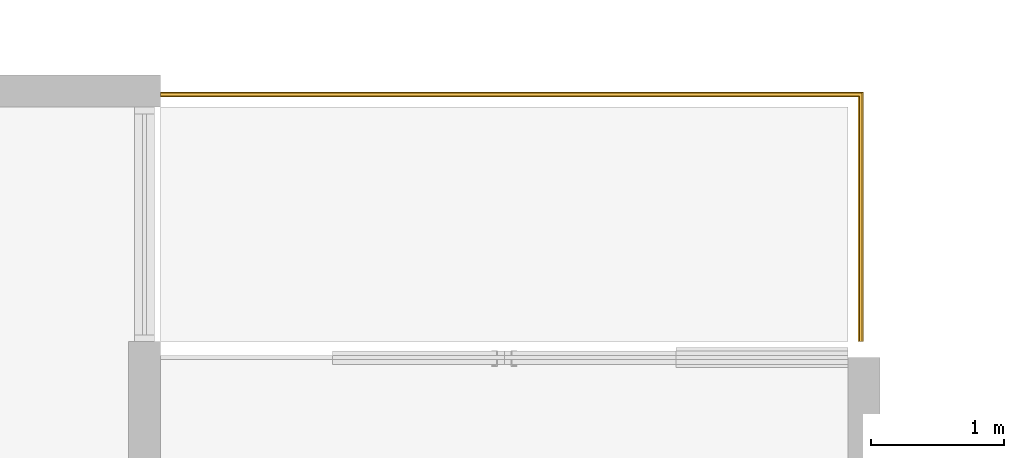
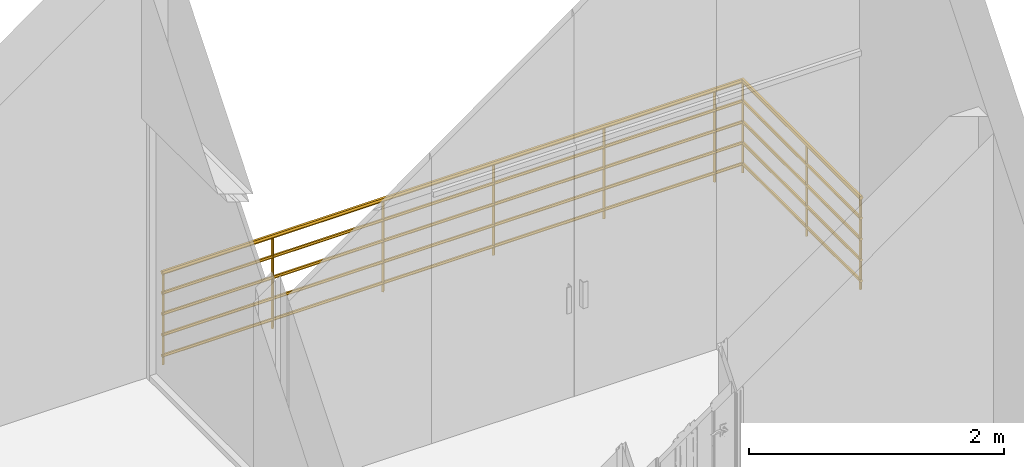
# One storey, part 33 of 33: 1 railing.
"""IFC2X3 building model written with IfcOpenShell, lengths in millimetres."""

from ifc_helpers import new_model, entity, si_unit, converted_unit, derived_unit, direction, frame, origin, place, context, subcontext, project, spatial, faceted_brep, material, element, save


model = new_model("IFC2X3")

# Units and contexts
model_context = context("Model", 3, precision=0.01, world=origin(), true_north=direction((6.12303176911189e-17, 1.0)))
body_context = subcontext(model_context, "Body", "Model", "MODEL_VIEW")
ifc_project = project(units=[si_unit("LENGTHUNIT", "METRE", prefix="MILLI"), si_unit("AREAUNIT", "SQUARE_METRE"), si_unit("VOLUMEUNIT", "CUBIC_METRE"), converted_unit("PLANEANGLEUNIT", "DEGREE", entity("IfcRatioMeasure", 0.0174532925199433), si_unit("PLANEANGLEUNIT", "RADIAN"), dimensions=[0, 0, 0, 0, 0, 0, 0]), si_unit("MASSUNIT", "GRAM", prefix="KILO"), derived_unit("MASSDENSITYUNIT", [(si_unit("MASSUNIT", "GRAM", prefix="KILO"), 1), (si_unit("LENGTHUNIT", "METRE"), -3)]), si_unit("TIMEUNIT", "SECOND"), si_unit("FREQUENCYUNIT", "HERTZ"), si_unit("THERMODYNAMICTEMPERATUREUNIT", "DEGREE_CELSIUS"), derived_unit("THERMALTRANSMITTANCEUNIT", [(si_unit("MASSUNIT", "GRAM", prefix="KILO"), 1), (si_unit("THERMODYNAMICTEMPERATUREUNIT", "KELVIN"), -1), (si_unit("TIMEUNIT", "SECOND"), -3)]), derived_unit("VOLUMETRICFLOWRATEUNIT", [(si_unit("LENGTHUNIT", "METRE"), 3), (si_unit("TIMEUNIT", "SECOND"), -1)]), si_unit("ELECTRICCURRENTUNIT", "AMPERE"), si_unit("ELECTRICVOLTAGEUNIT", "VOLT"), si_unit("POWERUNIT", "WATT"), si_unit("FORCEUNIT", "NEWTON", prefix="KILO"), si_unit("ILLUMINANCEUNIT", "LUX"), si_unit("LUMINOUSFLUXUNIT", "LUMEN"), si_unit("LUMINOUSINTENSITYUNIT", "CANDELA"), derived_unit("USERDEFINED", [(si_unit("MASSUNIT", "GRAM", prefix="KILO"), -1), (si_unit("LENGTHUNIT", "METRE"), -2), (si_unit("TIMEUNIT", "SECOND"), 3), (si_unit("LUMINOUSFLUXUNIT", "LUMEN"), 1)]), derived_unit("LINEARVELOCITYUNIT", [(si_unit("LENGTHUNIT", "METRE"), 1), (si_unit("TIMEUNIT", "SECOND"), -1)]), si_unit("PRESSUREUNIT", "PASCAL"), derived_unit("USERDEFINED", [(si_unit("LENGTHUNIT", "METRE"), -2), (si_unit("MASSUNIT", "GRAM", prefix="KILO"), 1), (si_unit("TIMEUNIT", "SECOND"), -2)])], contexts=[model_context])

# Site, building, storey
site_placement = place(None, origin())
site = spatial("IfcSite", under=ifc_project, at=site_placement, Name="表面", CompositionType="ELEMENT")
building_placement = place(site_placement, origin())
building = spatial("IfcBuilding", under=site, at=building_placement, CompositionType="ELEMENT")
storey_placement = place(building_placement, frame((0.0, 0.0, 6000.0)))
storey = spatial("IfcBuildingStorey", under=building, at=storey_placement, Name="3F", CompositionType="ELEMENT", Elevation=6000.00000000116)

# Railing
ifc_material = material(Name="不锈钢")
railing_placement = place(storey_placement, frame((-11911.8374126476, 3801.544073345, 0.0)))
element("IfcRailing", 1, at=railing_placement, inside=storey, material=ifc_material, Name="栏杆扶手:900mm 圆管", ObjectType="栏杆扶手:900mm 圆管", PredefinedType="NOTDEFINED", context=body_context, shape_type="Brep", body=[
    faceted_brep([(5244.0875, 856.587500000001, 0.0), (5256.58750000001, 844.087500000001, 0.0), (5256.58750000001, 844.087500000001, 860.0), (5244.0875, 856.587500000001, 860.0), (5269.08750000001, 856.587500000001, 0.0), (5269.08750000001, 856.587500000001, 860.0), (5256.58750000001, 869.087500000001, 860.0), (5256.58750000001, 869.087500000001, 0.0)], [[[0, 1, 2, 3]], [[2, 1, 4, 5]], [[6, 5, 4, 7]], [[6, 7, 0, 3]], [[3, 2, 5, 6]], [[0, 7, 4, 1]]]),
    faceted_brep([(5001.5875, 1844.0875, 0.0), (5014.0875, 1856.5875, 0.0), (5014.0875, 1856.5875, 860.0), (5001.5875, 1844.0875, 860.0), (5001.5875, 1869.0875, 0.0), (5001.5875, 1869.0875, 860.0), (4989.0875, 1856.5875, 860.0), (4989.0875, 1856.5875, 0.0)], [[[0, 1, 2, 3]], [[2, 1, 4, 5]], [[6, 5, 4, 7]], [[6, 7, 0, 3]], [[3, 2, 5, 6]], [[0, 7, 4, 1]]]),
    faceted_brep([(4001.5875, 1844.0875, 0.0), (4014.0875, 1856.58750000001, 0.0), (4014.0875, 1856.58750000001, 860.0), (4001.5875, 1844.0875, 860.0), (4001.5875, 1869.08750000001, 0.0), (4001.5875, 1869.08750000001, 860.0), (3989.0875, 1856.58750000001, 860.0), (3989.0875, 1856.58750000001, 0.0)], [[[0, 1, 2, 3]], [[2, 1, 4, 5]], [[6, 5, 4, 7]], [[6, 7, 0, 3]], [[3, 2, 5, 6]], [[0, 7, 4, 1]]]),
    faceted_brep([(3001.5875, 1844.08750000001, 0.0), (3014.0875, 1856.58750000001, 0.0), (3014.0875, 1856.58750000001, 860.0), (3001.5875, 1844.08750000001, 860.0), (3001.5875, 1869.08750000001, 0.0), (3001.5875, 1869.08750000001, 860.0), (2989.0875, 1856.58750000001, 860.0), (2989.0875, 1856.58750000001, 0.0)], [[[0, 1, 2, 3]], [[2, 1, 4, 5]], [[6, 5, 4, 7]], [[6, 7, 0, 3]], [[3, 2, 5, 6]], [[0, 7, 4, 1]]]),
    faceted_brep([(2001.5875, 1844.08750000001, 0.0), (2014.0875, 1856.58750000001, 0.0), (2014.0875, 1856.58750000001, 860.0), (2001.5875, 1844.08750000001, 860.0), (2001.5875, 1869.08750000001, 0.0), (2001.5875, 1869.08750000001, 860.0), (1989.0875, 1856.58750000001, 860.0), (1989.0875, 1856.58750000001, 0.0)], [[[0, 1, 2, 3]], [[2, 1, 4, 5]], [[6, 5, 4, 7]], [[6, 7, 0, 3]], [[3, 2, 5, 6]], [[0, 7, 4, 1]]]),
    faceted_brep([(1001.5875, 1844.08750000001, 0.0), (1014.0875, 1856.58750000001, 0.0), (1014.0875, 1856.58750000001, 860.0), (1001.5875, 1844.08750000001, 860.0), (1001.5875, 1869.08750000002, 0.0), (1001.5875, 1869.08750000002, 860.0), (989.087500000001, 1856.58750000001, 860.0), (989.087500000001, 1856.58750000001, 0.0)], [[[0, 1, 2, 3]], [[2, 1, 4, 5]], [[6, 5, 4, 7]], [[6, 7, 0, 3]], [[3, 2, 5, 6]], [[0, 7, 4, 1]]]),
    faceted_brep([(5256.58750000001, 1844.0875, 0.0), (5269.08750000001, 1856.5875, 0.0), (5269.08750000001, 1856.5875, 860.0), (5256.58750000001, 1844.0875, 860.0), (5256.58750000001, 1869.0875, 0.0), (5256.58750000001, 1869.0875, 860.0), (5244.08750000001, 1856.5875, 860.0), (5244.08750000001, 1856.5875, 0.0)], [[[0, 1, 2, 3]], [[2, 1, 4, 5]], [[6, 5, 4, 7]], [[6, 7, 0, 3]], [[3, 2, 5, 6]], [[0, 7, 4, 1]]]),
    faceted_brep([(5244.0875, 14.0875, 0.0), (5256.5875, 1.58750000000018, 0.0), (5256.5875, 1.58750000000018, 860.0), (5244.0875, 14.0875, 860.0), (5269.0875, 14.0875, 0.0), (5269.0875, 14.0875, 860.0), (5256.5875, 26.5874999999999, 860.0), (5256.5875, 26.5874999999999, 0.0)], [[[0, 1, 2, 3]], [[2, 1, 4, 5]], [[6, 5, 4, 7]], [[6, 7, 0, 3]], [[3, 2, 5, 6]], [[0, 7, 4, 1]]]),
    faceted_brep([(14.0875, 1844.08750000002, 0.0), (26.5874999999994, 1856.58750000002, 0.0), (26.5874999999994, 1856.58750000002, 860.0), (14.0875, 1844.08750000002, 860.0), (14.0875, 1869.08750000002, 0.0), (14.0875, 1869.08750000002, 860.0), (1.58750000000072, 1856.58750000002, 860.0), (1.58750000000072, 1856.58750000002, 0.0)], [[[0, 1, 2, 3]], [[2, 1, 4, 5]], [[6, 5, 4, 7]], [[6, 7, 0, 3]], [[3, 2, 5, 6]], [[0, 7, 4, 1]]]),
    faceted_brep([(1.58750000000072, 1846.58750000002, 897.320508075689), (1.58750000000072, 1851.58750000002, 897.320508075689), (1.58750000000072, 1856.58750000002, 897.320508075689), (1.58750000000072, 1861.58750000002, 897.320508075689), (1.58750000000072, 1866.58750000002, 897.320508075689), (1.58750000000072, 1869.08750000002, 892.990381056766), (1.58750000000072, 1871.58750000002, 888.660254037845), (1.58750000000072, 1874.08750000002, 884.330127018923), (1.58750000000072, 1876.58750000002, 880.0), (1.58750000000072, 1874.08750000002, 875.669872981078), (1.58750000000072, 1871.58750000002, 871.339745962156), (1.58750000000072, 1869.08750000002, 867.009618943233), (1.58750000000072, 1866.58750000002, 862.679491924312), (1.58750000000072, 1861.58750000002, 862.679491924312), (1.58750000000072, 1856.58750000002, 862.679491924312), (1.58750000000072, 1851.58750000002, 862.679491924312), (1.58750000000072, 1846.58750000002, 862.679491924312), (1.58750000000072, 1844.08750000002, 867.009618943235), (1.58750000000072, 1841.58750000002, 871.339745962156), (1.58750000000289, 1839.74511178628, 874.530855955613), (1.58750000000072, 1836.58750000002, 880.0), (1.58750000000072, 1839.74511178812, 885.469144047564), (1.58750000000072, 1842.90272357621, 890.938288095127), (1.58749999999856, 1844.74511178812, 894.12939808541), (5276.58750000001, 1876.5875, 880.0), (5274.36664988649, 1874.36664988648, 876.153374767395), (5273.42988884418, 1873.42988884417, 874.530857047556), (5272.14579977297, 1872.14579977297, 872.306749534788), (5271.58750000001, 1871.5875, 871.339745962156), (5269.36664988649, 1869.36664988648, 867.493120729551), (5269.08750000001, 1869.0875, 867.009618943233), (5266.58750000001, 1866.5875, 862.679491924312), (5246.58750000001, 1846.5875, 862.679491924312), (5244.08750000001, 1844.0875, 867.009618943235), (5241.58750000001, 1841.5875, 871.339745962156), (5239.08750000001, 1839.0875, 875.669872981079), (5236.58750000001, 1836.5875, 880.0), (5251.58750000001, 1851.5875, 862.679491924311), (5256.58750000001, 1856.5875, 862.679491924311), (5261.58750000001, 1861.5875, 862.679491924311), (5266.5875, 1.58750000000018, 862.679491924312), (5261.58750000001, 1.58750000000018, 862.679491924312), (5256.5875, 1.58750000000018, 862.679491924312), (5251.5875, 1.58750000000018, 862.679491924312), (5246.5875, 1.58750000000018, 862.679491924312), (5261.58750000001, 1861.5875, 897.320508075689), (5266.58750000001, 1866.5875, 897.320508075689), (5256.58750000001, 1856.5875, 897.320508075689), (5266.5875, 1.58750000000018, 897.320508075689), (5261.5875, 1.58750000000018, 897.320508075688), (5256.5875, 1.58750000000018, 897.320508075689), (5251.58750000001, 1851.5875, 897.32050807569), (5246.58750000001, 1846.5875, 897.320508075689), (5251.5875, 1.58750000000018, 897.320508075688), (5246.5875, 1.58750000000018, 897.320508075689), (5239.08750000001, 1839.0875, 884.330127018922), (5241.58750000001, 1841.5875, 888.660254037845), (5244.08750000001, 1844.0875, 892.990381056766), (5268.42988884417, 1868.42988884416, 894.129396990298), (5269.08750000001, 1869.0875, 892.990381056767), (5270.27227768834, 1870.27227768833, 890.938285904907), (5271.58750000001, 1871.5875, 888.660254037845), (5273.42988884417, 1873.42988884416, 885.469142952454), (5274.36664988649, 1874.36664988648, 883.846625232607), (5269.0875, 1.58750000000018, 867.009618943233), (5271.5875, 1.58750000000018, 871.339745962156), (5274.0875, 1.58750000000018, 875.669872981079), (5276.5875, 1.58750000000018, 880.0), (5274.0875, 1.58750000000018, 884.330127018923), (5271.5875, 1.58750000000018, 888.660254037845), (5269.0875, 1.58750000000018, 892.990381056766), (5243.8083536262, 1.58750000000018, 892.506885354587), (5241.02920725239, 1.58750000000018, 887.693262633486), (5238.8083536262, 1.58750000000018, 883.846631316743), (5236.5875, 1.58750000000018, 880.0), (5238.80835362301, 1.58750000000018, 876.15336868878), (5241.5875, 1.58750000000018, 871.339745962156), (5244.0875, 1.58750000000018, 867.009618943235)], [[[0, 1, 2, 3, 4, 5, 6, 7, 8, 9, 10, 11, 12, 13, 14, 15, 16, 17, 18, 19, 20, 21, 22, 23]], [[24, 25, 26, 27, 28, 29, 30, 31, 12, 11, 10, 9, 8]], [[18, 17, 16, 32, 33, 34, 35, 36, 20, 19]], [[14, 37, 15]], [[38, 37, 14]], [[14, 13, 38]], [[38, 13, 39]], [[12, 39, 13]], [[12, 31, 39]], [[40, 39, 31]], [[39, 40, 41]], [[41, 38, 39]], [[41, 42, 38]], [[38, 42, 37]], [[42, 43, 37]], [[43, 32, 37]], [[44, 32, 43]], [[32, 16, 15]], [[32, 15, 37]], [[45, 4, 3]], [[46, 4, 45]], [[47, 45, 3]], [[45, 48, 46]], [[48, 45, 49]], [[45, 47, 49]], [[50, 49, 47]], [[2, 47, 3]], [[2, 51, 47]], [[51, 2, 1]], [[1, 52, 51]], [[1, 0, 52]], [[51, 52, 53]], [[52, 54, 53]], [[50, 51, 53]], [[51, 50, 47]], [[20, 36, 55, 56, 57, 52, 0, 23, 22, 21]], [[7, 6, 5, 4, 46, 58, 59, 60, 61, 62, 63, 24, 8]], [[40, 64, 65, 66, 67, 68, 69, 70, 48, 49, 50, 53, 54, 71, 72, 73, 74, 75, 76, 77, 44, 43, 42, 41]], [[65, 64, 40, 31, 30, 29, 28, 27, 26, 25, 24, 67, 66]], [[77, 76, 75, 74, 36, 35, 34, 33, 32, 44]], [[56, 55, 36, 74, 73, 72, 71, 54, 52, 57]], [[70, 69, 68, 67, 24, 63, 62, 61, 60, 59, 58, 46, 48]]]),
    faceted_brep([(1.58750000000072, 1871.58750000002, 685.0), (1.58750000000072, 1869.52128994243, 681.421219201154), (1.58750000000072, 1867.83750000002, 678.504809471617), (1.58750000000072, 1865.96250000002, 675.257214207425), (1.58750000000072, 1864.08750000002, 672.009618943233), (1.58750000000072, 1860.33750000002, 672.009618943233), (1.58750000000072, 1856.58750000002, 672.009618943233), (1.58749999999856, 1852.83750000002, 672.009618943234), (1.58750000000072, 1849.08750000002, 672.009618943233), (1.58750000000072, 1847.21250000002, 675.257214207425), (1.58750000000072, 1845.33750000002, 678.504809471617), (1.58750000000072, 1843.6537100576, 681.421219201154), (1.58750000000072, 1841.58750000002, 685.0), (1.58750000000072, 1843.65371005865, 688.578780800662), (1.58750000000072, 1845.71992011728, 692.157561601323), (1.58750000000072, 1847.40371005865, 695.073971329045), (1.58750000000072, 1849.08750000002, 697.990381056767), (1.58750000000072, 1852.83750000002, 697.990381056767), (1.58750000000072, 1856.58750000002, 697.990381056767), (1.58750000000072, 1860.33750000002, 697.990381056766), (1.58750000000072, 1864.08750000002, 697.990381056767), (1.58750000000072, 1865.96250000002, 694.742785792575), (1.58750000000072, 1867.83750000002, 691.495190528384), (1.58750000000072, 1869.71250000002, 688.247595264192), (5271.58750000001, 1871.5875, 685.0), (5270.1411576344, 1870.14115763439, 682.494861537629), (5269.52129017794, 1869.52129017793, 681.421219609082), (5268.69481526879, 1868.69481526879, 679.989723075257), (5267.45508035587, 1867.45508035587, 677.842439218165), (5266.3911576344, 1866.39115763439, 675.999671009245), (5265.77129017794, 1865.77129017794, 674.926029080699), (5264.08750000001, 1864.0875, 672.009618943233), (5249.08750000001, 1849.0875, 672.009618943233), (5247.21250000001, 1847.2125, 675.257214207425), (5245.33750000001, 1845.3375, 678.504809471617), (5243.46250000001, 1843.4625, 681.752404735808), (5241.58750000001, 1841.5875, 685.0), (5252.83750000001, 1852.8375, 672.009618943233), (5252.8375, 1.58750000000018, 672.009618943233), (5249.0875, 1.58750000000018, 672.009618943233), (5256.58750000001, 1856.5875, 672.009618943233), (5260.33750000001, 1860.3375, 672.009618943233), (5264.0875, 1.58750000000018, 672.009618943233), (5260.33750000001, 1.58750000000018, 672.009618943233), (5256.5875, 1.58750000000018, 672.009618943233), (5260.33750000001, 1860.3375, 697.990381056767), (5264.08750000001, 1864.0875, 697.990381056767), (5256.58750000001, 1856.5875, 697.990381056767), (5264.0875, 1.58750000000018, 697.990381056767), (5260.33750000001, 1.58750000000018, 697.990381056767), (5256.5875, 1.58750000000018, 697.990381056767), (5252.83750000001, 1852.8375, 697.990381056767), (5249.08750000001, 1849.0875, 697.990381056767), (5252.8375, 1.58750000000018, 697.990381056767), (5249.0875, 1.58750000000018, 697.990381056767), (5245.33750000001, 1845.3375, 691.495190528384), (5247.21250000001, 1847.2125, 694.742785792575), (5243.46250000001, 1843.4625, 688.247595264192), (5243.65370982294, 1843.65370982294, 688.578780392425), (5265.96250000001, 1865.9625, 694.742785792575), (5267.83750000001, 1867.8375, 691.495190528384), (5269.52129017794, 1869.52129017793, 688.578780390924), (5270.1411576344, 1870.14115763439, 687.505138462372), (5241.5875, 1.58750000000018, 685.0), (5243.03384365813, 1.58750000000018, 682.494859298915), (5245.3375, 1.58750000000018, 678.504809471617), (5247.2125, 1.58750000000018, 675.257214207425), (5265.9625, 1.58750000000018, 675.257214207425), (5267.8375, 1.58750000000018, 678.504809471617), (5269.7125, 1.58750000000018, 681.752404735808), (5271.5875, 1.58750000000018, 685.0), (5269.7125, 1.58750000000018, 688.247595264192), (5267.8375, 1.58750000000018, 691.495190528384), (5265.9625, 1.58750000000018, 694.742785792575), (5246.78384365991, 1.58750000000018, 694.000331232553), (5244.48018731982, 1.58750000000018, 690.01028140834), (5243.03384365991, 1.58750000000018, 687.505140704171)], [[[0, 1, 2, 3, 4, 5, 6, 7, 8, 9, 10, 11, 12, 13, 14, 15, 16, 17, 18, 19, 20, 21, 22, 23]], [[4, 3, 2, 1, 0, 24, 25, 26, 27, 28, 29, 30, 31]], [[10, 9, 8, 32, 33, 34, 35, 36, 12, 11]], [[32, 7, 37]], [[32, 8, 7]], [[38, 32, 37]], [[39, 32, 38]], [[6, 37, 7]], [[40, 37, 6]], [[6, 5, 40]], [[40, 5, 41]], [[4, 41, 5]], [[4, 31, 41]], [[42, 41, 31]], [[41, 42, 43]], [[43, 40, 41]], [[43, 44, 40]], [[40, 44, 37]], [[44, 38, 37]], [[45, 20, 19]], [[46, 20, 45]], [[47, 45, 19]], [[45, 48, 46]], [[48, 45, 49]], [[45, 47, 49]], [[50, 49, 47]], [[18, 47, 19]], [[18, 51, 47]], [[51, 18, 17]], [[17, 52, 51]], [[17, 16, 52]], [[51, 52, 53]], [[52, 54, 53]], [[50, 51, 53]], [[51, 50, 47]], [[55, 56, 52, 16, 15, 14, 13, 12, 36, 57, 58]], [[22, 21, 20, 46, 59, 60, 61, 62, 24, 0, 23]], [[63, 64, 65, 66, 39, 38, 44, 43, 42, 67, 68, 69, 70, 71, 72, 73, 48, 49, 50, 53, 54, 74, 75, 76]], [[31, 30, 29, 28, 27, 26, 25, 24, 70, 69, 68, 67, 42]], [[34, 33, 32, 39, 66, 65, 64, 63, 36, 35]], [[54, 52, 56, 55, 58, 57, 36, 63, 76, 75, 74]], [[73, 72, 71, 70, 24, 62, 61, 60, 59, 46, 48]]]),
    faceted_brep([(1.58750000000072, 1871.58750000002, 485.0), (1.58750000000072, 1869.52128994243, 481.421219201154), (1.58750000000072, 1867.83750000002, 478.504809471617), (1.58750000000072, 1865.96250000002, 475.257214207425), (1.58750000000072, 1864.08750000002, 472.009618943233), (1.58750000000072, 1860.33750000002, 472.009618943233), (1.58750000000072, 1856.58750000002, 472.009618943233), (1.58749999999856, 1852.83750000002, 472.009618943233), (1.58750000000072, 1849.08750000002, 472.009618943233), (1.58750000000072, 1847.21250000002, 475.257214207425), (1.58750000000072, 1845.33750000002, 478.504809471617), (1.58750000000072, 1843.6537100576, 481.421219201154), (1.58750000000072, 1841.58750000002, 485.0), (1.58750000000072, 1843.65371005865, 488.578780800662), (1.58750000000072, 1845.71992011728, 492.157561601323), (1.58750000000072, 1847.40371005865, 495.073971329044), (1.58750000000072, 1849.08750000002, 497.990381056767), (1.58750000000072, 1852.83750000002, 497.990381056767), (1.58750000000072, 1856.58750000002, 497.990381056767), (1.58750000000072, 1860.33750000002, 497.990381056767), (1.58750000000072, 1864.08750000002, 497.990381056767), (1.58750000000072, 1865.96250000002, 494.742785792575), (1.58750000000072, 1867.83750000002, 491.495190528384), (1.58750000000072, 1869.71250000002, 488.247595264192), (5271.58750000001, 1871.5875, 485.0), (5270.1411576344, 1870.14115763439, 482.494861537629), (5269.52129017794, 1869.52129017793, 481.421219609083), (5268.69481526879, 1868.69481526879, 479.989723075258), (5267.45508035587, 1867.45508035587, 477.842439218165), (5266.3911576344, 1866.39115763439, 475.999671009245), (5265.77129017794, 1865.77129017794, 474.926029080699), (5264.08750000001, 1864.0875, 472.009618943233), (5249.08750000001, 1849.0875, 472.009618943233), (5247.21250000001, 1847.2125, 475.257214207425), (5245.33750000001, 1845.3375, 478.504809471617), (5243.46250000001, 1843.4625, 481.752404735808), (5241.58750000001, 1841.5875, 485.0), (5252.83750000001, 1852.8375, 472.009618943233), (5252.8375, 1.58750000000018, 472.009618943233), (5249.0875, 1.58750000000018, 472.009618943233), (5256.58750000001, 1856.5875, 472.009618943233), (5260.33750000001, 1860.3375, 472.009618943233), (5264.0875, 1.58750000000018, 472.009618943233), (5260.33750000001, 1.58750000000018, 472.009618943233), (5256.5875, 1.58750000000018, 472.009618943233), (5260.33750000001, 1860.3375, 497.990381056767), (5264.08750000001, 1864.0875, 497.990381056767), (5256.58750000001, 1856.5875, 497.990381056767), (5264.0875, 1.58750000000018, 497.990381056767), (5260.33750000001, 1.58750000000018, 497.990381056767), (5256.5875, 1.58750000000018, 497.990381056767), (5252.83750000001, 1852.8375, 497.990381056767), (5249.08750000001, 1849.0875, 497.990381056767), (5252.8375, 1.58750000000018, 497.990381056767), (5249.0875, 1.58750000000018, 497.990381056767), (5245.33750000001, 1845.3375, 491.495190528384), (5247.21250000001, 1847.2125, 494.742785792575), (5243.46250000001, 1843.4625, 488.247595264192), (5243.65370982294, 1843.65370982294, 488.578780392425), (5265.96250000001, 1865.9625, 494.742785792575), (5267.83750000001, 1867.8375, 491.495190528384), (5269.52129017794, 1869.52129017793, 488.578780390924), (5270.1411576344, 1870.14115763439, 487.505138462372), (5241.5875, 1.58750000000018, 485.0), (5243.03384365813, 1.58750000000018, 482.494859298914), (5245.3375, 1.58750000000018, 478.504809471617), (5247.2125, 1.58750000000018, 475.257214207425), (5265.9625, 1.58750000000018, 475.257214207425), (5267.8375, 1.58750000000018, 478.504809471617), (5269.7125, 1.58750000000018, 481.752404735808), (5271.5875, 1.58750000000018, 485.0), (5269.7125, 1.58750000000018, 488.247595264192), (5267.8375, 1.58750000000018, 491.495190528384), (5265.9625, 1.58750000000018, 494.742785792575), (5246.78384365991, 1.58750000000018, 494.000331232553), (5244.48018731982, 1.58750000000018, 490.01028140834), (5243.03384365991, 1.58750000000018, 487.505140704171)], [[[0, 1, 2, 3, 4, 5, 6, 7, 8, 9, 10, 11, 12, 13, 14, 15, 16, 17, 18, 19, 20, 21, 22, 23]], [[4, 3, 2, 1, 0, 24, 25, 26, 27, 28, 29, 30, 31]], [[10, 9, 8, 32, 33, 34, 35, 36, 12, 11]], [[32, 7, 37]], [[32, 8, 7]], [[38, 32, 37]], [[39, 32, 38]], [[6, 37, 7]], [[40, 37, 6]], [[6, 5, 40]], [[40, 5, 41]], [[4, 41, 5]], [[4, 31, 41]], [[42, 41, 31]], [[41, 42, 43]], [[43, 40, 41]], [[43, 44, 40]], [[40, 44, 37]], [[44, 38, 37]], [[45, 20, 19]], [[46, 20, 45]], [[47, 45, 19]], [[45, 48, 46]], [[48, 45, 49]], [[45, 47, 49]], [[50, 49, 47]], [[18, 47, 19]], [[18, 51, 47]], [[51, 18, 17]], [[17, 52, 51]], [[17, 16, 52]], [[51, 52, 53]], [[52, 54, 53]], [[50, 51, 53]], [[51, 50, 47]], [[55, 56, 52, 16, 15, 14, 13, 12, 36, 57, 58]], [[22, 21, 20, 46, 59, 60, 61, 62, 24, 0, 23]], [[63, 64, 65, 66, 39, 38, 44, 43, 42, 67, 68, 69, 70, 71, 72, 73, 48, 49, 50, 53, 54, 74, 75, 76]], [[31, 30, 29, 28, 27, 26, 25, 24, 70, 69, 68, 67, 42]], [[34, 33, 32, 39, 66, 65, 64, 63, 36, 35]], [[54, 52, 56, 55, 58, 57, 36, 63, 76, 75, 74]], [[73, 72, 71, 70, 24, 62, 61, 60, 59, 46, 48]]]),
    faceted_brep([(1.58750000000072, 1871.58750000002, 285.0), (1.58750000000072, 1869.52128994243, 281.421219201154), (1.58750000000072, 1867.83750000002, 278.504809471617), (1.58750000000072, 1865.96250000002, 275.257214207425), (1.58750000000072, 1864.08750000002, 272.009618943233), (1.58750000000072, 1860.33750000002, 272.009618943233), (1.58750000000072, 1856.58750000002, 272.009618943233), (1.58749999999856, 1852.83750000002, 272.009618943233), (1.58750000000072, 1849.08750000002, 272.009618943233), (1.58750000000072, 1847.21250000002, 275.257214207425), (1.58750000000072, 1845.33750000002, 278.504809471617), (1.58750000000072, 1843.6537100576, 281.421219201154), (1.58750000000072, 1841.58750000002, 285.0), (1.58750000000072, 1843.65371005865, 288.578780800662), (1.58750000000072, 1845.71992011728, 292.157561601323), (1.58750000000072, 1847.40371005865, 295.073971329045), (1.58750000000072, 1849.08750000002, 297.990381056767), (1.58750000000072, 1852.83750000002, 297.990381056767), (1.58750000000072, 1856.58750000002, 297.990381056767), (1.58750000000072, 1860.33750000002, 297.990381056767), (1.58750000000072, 1864.08750000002, 297.990381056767), (1.58750000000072, 1865.96250000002, 294.742785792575), (1.58750000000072, 1867.83750000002, 291.495190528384), (1.58750000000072, 1869.71250000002, 288.247595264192), (5271.58750000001, 1871.5875, 285.0), (5270.1411576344, 1870.14115763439, 282.49486153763), (5269.52129017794, 1869.52129017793, 281.421219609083), (5268.69481526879, 1868.69481526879, 279.989723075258), (5267.45508035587, 1867.45508035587, 277.842439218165), (5266.3911576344, 1866.39115763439, 275.999671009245), (5265.77129017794, 1865.77129017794, 274.926029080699), (5264.08750000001, 1864.0875, 272.009618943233), (5249.08750000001, 1849.0875, 272.009618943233), (5247.21250000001, 1847.2125, 275.257214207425), (5245.33750000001, 1845.3375, 278.504809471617), (5243.46250000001, 1843.4625, 281.752404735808), (5241.58750000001, 1841.5875, 285.0), (5252.83750000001, 1852.8375, 272.009618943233), (5252.8375, 1.58750000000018, 272.009618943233), (5249.0875, 1.58750000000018, 272.009618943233), (5256.58750000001, 1856.5875, 272.009618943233), (5260.33750000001, 1860.3375, 272.009618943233), (5264.0875, 1.58750000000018, 272.009618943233), (5260.33750000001, 1.58750000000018, 272.009618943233), (5256.5875, 1.58750000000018, 272.009618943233), (5260.33750000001, 1860.3375, 297.990381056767), (5264.08750000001, 1864.0875, 297.990381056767), (5256.58750000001, 1856.5875, 297.990381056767), (5264.0875, 1.58750000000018, 297.990381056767), (5260.33750000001, 1.58750000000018, 297.990381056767), (5256.5875, 1.58750000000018, 297.990381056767), (5252.83750000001, 1852.8375, 297.990381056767), (5249.08750000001, 1849.0875, 297.990381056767), (5252.8375, 1.58750000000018, 297.990381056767), (5249.0875, 1.58750000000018, 297.990381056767), (5245.33750000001, 1845.3375, 291.495190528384), (5247.21250000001, 1847.2125, 294.742785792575), (5243.46250000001, 1843.4625, 288.247595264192), (5243.65370982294, 1843.65370982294, 288.578780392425), (5265.96250000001, 1865.9625, 294.742785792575), (5267.83750000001, 1867.8375, 291.495190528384), (5269.52129017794, 1869.52129017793, 288.578780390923), (5270.1411576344, 1870.14115763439, 287.505138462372), (5241.5875, 1.58750000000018, 285.0), (5243.03384365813, 1.58750000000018, 282.494859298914), (5245.3375, 1.58750000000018, 278.504809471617), (5247.2125, 1.58750000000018, 275.257214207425), (5265.9625, 1.58750000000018, 275.257214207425), (5267.8375, 1.58750000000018, 278.504809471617), (5269.7125, 1.58750000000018, 281.752404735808), (5271.5875, 1.58750000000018, 285.0), (5269.7125, 1.58750000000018, 288.247595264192), (5267.8375, 1.58750000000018, 291.495190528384), (5265.9625, 1.58750000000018, 294.742785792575), (5246.78384365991, 1.58750000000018, 294.000331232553), (5244.48018731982, 1.58750000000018, 290.01028140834), (5243.03384365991, 1.58750000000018, 287.505140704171)], [[[0, 1, 2, 3, 4, 5, 6, 7, 8, 9, 10, 11, 12, 13, 14, 15, 16, 17, 18, 19, 20, 21, 22, 23]], [[4, 3, 2, 1, 0, 24, 25, 26, 27, 28, 29, 30, 31]], [[10, 9, 8, 32, 33, 34, 35, 36, 12, 11]], [[32, 7, 37]], [[32, 8, 7]], [[38, 32, 37]], [[39, 32, 38]], [[6, 37, 7]], [[40, 37, 6]], [[6, 5, 40]], [[40, 5, 41]], [[4, 41, 5]], [[4, 31, 41]], [[42, 41, 31]], [[41, 42, 43]], [[43, 40, 41]], [[43, 44, 40]], [[40, 44, 37]], [[44, 38, 37]], [[45, 20, 19]], [[46, 20, 45]], [[47, 45, 19]], [[45, 48, 46]], [[48, 45, 49]], [[45, 47, 49]], [[50, 49, 47]], [[18, 47, 19]], [[18, 51, 47]], [[51, 18, 17]], [[17, 52, 51]], [[17, 16, 52]], [[51, 52, 53]], [[52, 54, 53]], [[50, 51, 53]], [[51, 50, 47]], [[55, 56, 52, 16, 15, 14, 13, 12, 36, 57, 58]], [[22, 21, 20, 46, 59, 60, 61, 62, 24, 0, 23]], [[63, 64, 65, 66, 39, 38, 44, 43, 42, 67, 68, 69, 70, 71, 72, 73, 48, 49, 50, 53, 54, 74, 75, 76]], [[31, 30, 29, 28, 27, 26, 25, 24, 70, 69, 68, 67, 42]], [[34, 33, 32, 39, 66, 65, 64, 63, 36, 35]], [[54, 52, 56, 55, 58, 57, 36, 63, 76, 75, 74]], [[73, 72, 71, 70, 24, 62, 61, 60, 59, 46, 48]]]),
    faceted_brep([(1.58750000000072, 1871.58750000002, 85.0), (1.58750000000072, 1869.52128994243, 81.4212192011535), (1.58750000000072, 1867.83750000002, 78.5048094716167), (1.58750000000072, 1865.96250000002, 75.257214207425), (1.58750000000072, 1864.08750000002, 72.0096189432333), (1.58750000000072, 1860.33750000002, 72.0096189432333), (1.58750000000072, 1856.58750000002, 72.0096189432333), (1.58749999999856, 1852.83750000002, 72.0096189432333), (1.58750000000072, 1849.08750000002, 72.0096189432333), (1.58750000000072, 1847.21250000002, 75.257214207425), (1.58750000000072, 1845.33750000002, 78.5048094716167), (1.58750000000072, 1843.6537100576, 81.4212192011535), (1.58750000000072, 1841.58750000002, 85.0), (1.58750000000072, 1843.65371005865, 88.5787808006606), (1.58750000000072, 1845.71992011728, 92.1575616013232), (1.58750000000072, 1847.40371005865, 95.0739713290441), (1.58750000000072, 1849.08750000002, 97.9903810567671), (1.58750000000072, 1852.83750000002, 97.9903810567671), (1.58750000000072, 1856.58750000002, 97.9903810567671), (1.58750000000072, 1860.33750000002, 97.9903810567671), (1.58750000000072, 1864.08750000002, 97.9903810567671), (1.58750000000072, 1865.96250000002, 94.7427857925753), (1.58750000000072, 1867.83750000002, 91.4951905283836), (1.58750000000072, 1869.71250000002, 88.2475952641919), (5271.58750000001, 1871.5875, 85.0), (5270.1411576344, 1870.14115763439, 82.4948615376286), (5269.52129017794, 1869.52129017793, 81.4212196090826), (5268.69481526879, 1868.69481526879, 79.989723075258), (5267.45508035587, 1867.45508035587, 77.842439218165), (5266.3911576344, 1866.39115763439, 75.9996710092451), (5265.77129017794, 1865.77129017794, 74.9260290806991), (5264.08750000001, 1864.0875, 72.0096189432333), (5249.08750000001, 1849.0875, 72.0096189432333), (5247.21250000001, 1847.2125, 75.257214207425), (5245.33750000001, 1845.3375, 78.5048094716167), (5243.46250000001, 1843.4625, 81.7524047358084), (5241.58750000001, 1841.5875, 85.0), (5252.83750000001, 1852.8375, 72.0096189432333), (5252.8375, 1.58750000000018, 72.0096189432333), (5249.0875, 1.58750000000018, 72.0096189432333), (5256.58750000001, 1856.5875, 72.0096189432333), (5260.33750000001, 1860.3375, 72.0096189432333), (5264.0875, 1.58750000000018, 72.0096189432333), (5260.33750000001, 1.58750000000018, 72.0096189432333), (5256.5875, 1.58750000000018, 72.0096189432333), (5260.33750000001, 1860.3375, 97.9903810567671), (5264.08750000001, 1864.0875, 97.9903810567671), (5256.58750000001, 1856.5875, 97.9903810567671), (5264.0875, 1.58750000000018, 97.9903810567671), (5260.33750000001, 1.58750000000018, 97.9903810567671), (5256.5875, 1.58750000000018, 97.9903810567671), (5252.83750000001, 1852.8375, 97.9903810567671), (5249.08750000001, 1849.0875, 97.9903810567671), (5252.8375, 1.58750000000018, 97.9903810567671), (5249.0875, 1.58750000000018, 97.9903810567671), (5245.33750000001, 1845.3375, 91.4951905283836), (5247.21250000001, 1847.2125, 94.7427857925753), (5243.46250000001, 1843.4625, 88.2475952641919), (5243.65370982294, 1843.65370982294, 88.5787803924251), (5265.96250000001, 1865.9625, 94.7427857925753), (5267.83750000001, 1867.8375, 91.4951905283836), (5269.52129017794, 1869.52129017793, 88.5787803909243), (5270.1411576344, 1870.14115763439, 87.5051384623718), (5241.5875, 1.58750000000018, 85.0), (5243.03384365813, 1.58750000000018, 82.4948592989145), (5245.3375, 1.58750000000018, 78.5048094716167), (5247.2125, 1.58750000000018, 75.257214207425), (5265.9625, 1.58750000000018, 75.257214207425), (5267.8375, 1.58750000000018, 78.5048094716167), (5269.7125, 1.58750000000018, 81.7524047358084), (5271.5875, 1.58750000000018, 85.0), (5269.7125, 1.58750000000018, 88.2475952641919), (5267.8375, 1.58750000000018, 91.4951905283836), (5265.9625, 1.58750000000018, 94.7427857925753), (5246.78384365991, 1.58750000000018, 94.0003312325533), (5244.48018731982, 1.58750000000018, 90.0102814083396), (5243.03384365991, 1.58750000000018, 87.505140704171)], [[[0, 1, 2, 3, 4, 5, 6, 7, 8, 9, 10, 11, 12, 13, 14, 15, 16, 17, 18, 19, 20, 21, 22, 23]], [[4, 3, 2, 1, 0, 24, 25, 26, 27, 28, 29, 30, 31]], [[10, 9, 8, 32, 33, 34, 35, 36, 12, 11]], [[32, 7, 37]], [[32, 8, 7]], [[38, 32, 37]], [[39, 32, 38]], [[6, 37, 7]], [[40, 37, 6]], [[6, 5, 40]], [[40, 5, 41]], [[4, 41, 5]], [[4, 31, 41]], [[42, 41, 31]], [[41, 42, 43]], [[43, 40, 41]], [[43, 44, 40]], [[40, 44, 37]], [[44, 38, 37]], [[45, 20, 19]], [[46, 20, 45]], [[47, 45, 19]], [[45, 48, 46]], [[48, 45, 49]], [[45, 47, 49]], [[50, 49, 47]], [[18, 47, 19]], [[18, 51, 47]], [[51, 18, 17]], [[17, 52, 51]], [[17, 16, 52]], [[51, 52, 53]], [[52, 54, 53]], [[50, 51, 53]], [[51, 50, 47]], [[55, 56, 52, 16, 15, 14, 13, 12, 36, 57, 58]], [[22, 21, 20, 46, 59, 60, 61, 62, 24, 0, 23]], [[63, 64, 65, 66, 39, 38, 44, 43, 42, 67, 68, 69, 70, 71, 72, 73, 48, 49, 50, 53, 54, 74, 75, 76]], [[31, 30, 29, 28, 27, 26, 25, 24, 70, 69, 68, 67, 42]], [[34, 33, 32, 39, 66, 65, 64, 63, 36, 35]], [[54, 52, 56, 55, 58, 57, 36, 63, 76, 75, 74]], [[73, 72, 71, 70, 24, 62, 61, 60, 59, 46, 48]]]),
])

save(model, "model.ifc")
